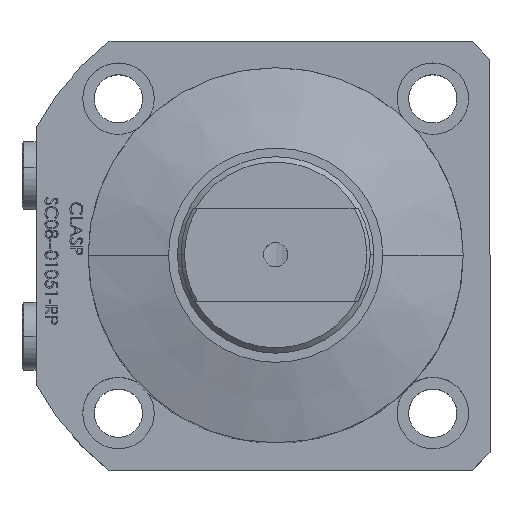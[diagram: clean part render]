
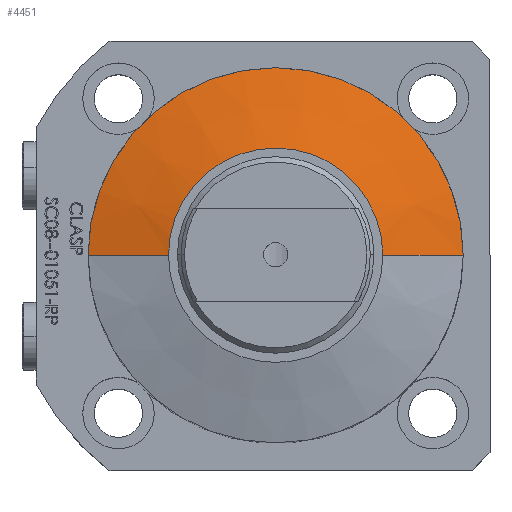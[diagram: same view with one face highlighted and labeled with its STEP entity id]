
A CAD part, top view. The second image highlights one B-rep face of the part: STEP entity #4451.
In plain terms, the highlighted conical face has half-angle 75 degrees and reference radius 99.495 mm.
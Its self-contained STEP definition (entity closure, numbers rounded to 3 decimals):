
#949 = ORIENTED_EDGE ( 'NONE', *, *, #7145, .T. ) ;
#1831 = CONICAL_SURFACE ( 'NONE', #16007, 99.495, 1.309 ) ;
#2013 = VECTOR ( 'NONE', #6610, 1000. ) ;
#2948 = EDGE_CURVE ( 'NONE', #11434, #15976, #5557, .T. ) ;
#3083 = AXIS2_PLACEMENT_3D ( 'NONE', #6510, #15833, #7822 ) ;
#4451 = ADVANCED_FACE ( 'NONE', ( #5786 ), #1831, .T. ) ;
#4652 = CARTESIAN_POINT ( 'NONE',  ( 52.5, 0., 142.971 ) ) ;
#4703 = ORIENTED_EDGE ( 'NONE', *, *, #11811, .T. ) ;
#4841 = DIRECTION ( 'NONE',  ( 0., 0., -1. ) ) ;
#5418 = CARTESIAN_POINT ( 'NONE',  ( 30., 0., 149. ) ) ;
#5557 = LINE ( 'NONE', #10665, #2013 ) ;
#5786 = FACE_OUTER_BOUND ( 'NONE', #15512, .T. ) ;
#6044 = VERTEX_POINT ( 'NONE', #5418 ) ;
#6159 = CARTESIAN_POINT ( 'NONE',  ( -52.5, 0., 142.971 ) ) ;
#6510 = CARTESIAN_POINT ( 'NONE',  ( 0., 0., 149. ) ) ;
#6610 = DIRECTION ( 'NONE',  ( -0.966, 0., -0.259 ) ) ;
#6660 = CARTESIAN_POINT ( 'NONE',  ( 0., 0., 130.379 ) ) ;
#7145 = EDGE_CURVE ( 'NONE', #6044, #12083, #7373, .T. ) ;
#7373 = LINE ( 'NONE', #10116, #14455 ) ;
#7379 = DIRECTION ( 'NONE',  ( 0.966, 0., -0.259 ) ) ;
#7822 = DIRECTION ( 'NONE',  ( -1., 0., 0. ) ) ;
#8447 = CIRCLE ( 'NONE', #3083, 30. ) ;
#8562 = CIRCLE ( 'NONE', #10054, 52.5 ) ;
#9266 = DIRECTION ( 'NONE',  ( 0., 0., -1. ) ) ;
#10054 = AXIS2_PLACEMENT_3D ( 'NONE', #12737, #4841, #14113 ) ;
#10116 = CARTESIAN_POINT ( 'NONE',  ( 99.495, 0., 130.379 ) ) ;
#10665 = CARTESIAN_POINT ( 'NONE',  ( -99.495, 0., 130.379 ) ) ;
#11434 = VERTEX_POINT ( 'NONE', #13860 ) ;
#11811 = EDGE_CURVE ( 'NONE', #11434, #6044, #8447, .T. ) ;
#12083 = VERTEX_POINT ( 'NONE', #4652 ) ;
#12737 = CARTESIAN_POINT ( 'NONE',  ( 0., 0., 142.971 ) ) ;
#13860 = CARTESIAN_POINT ( 'NONE',  ( -30., 0., 149. ) ) ;
#14113 = DIRECTION ( 'NONE',  ( -1., 0., 0. ) ) ;
#14455 = VECTOR ( 'NONE', #7379, 1000. ) ;
#14754 = EDGE_CURVE ( 'NONE', #15976, #12083, #8562, .T. ) ;
#15352 = ORIENTED_EDGE ( 'NONE', *, *, #2948, .F. ) ;
#15512 = EDGE_LOOP ( 'NONE', ( #4703, #949, #15802, #15352 ) ) ;
#15802 = ORIENTED_EDGE ( 'NONE', *, *, #14754, .F. ) ;
#15833 = DIRECTION ( 'NONE',  ( 0., 0., -1. ) ) ;
#15976 = VERTEX_POINT ( 'NONE', #6159 ) ;
#15981 = DIRECTION ( 'NONE',  ( -1., 0., 0. ) ) ;
#16007 = AXIS2_PLACEMENT_3D ( 'NONE', #6660, #9266, #15981 ) ;
